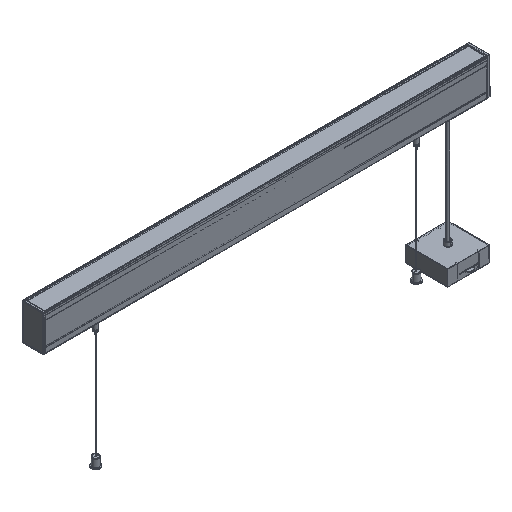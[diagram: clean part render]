
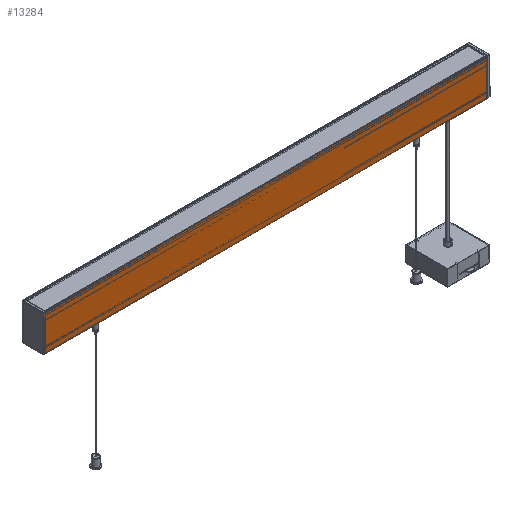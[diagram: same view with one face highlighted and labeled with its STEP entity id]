
A CAD part, isometric view. The second image highlights one B-rep face of the part: STEP entity #13284.
In plain terms, the highlighted planar face has unit normal (0, -1, 0) as drawn and (-1, 0, 0) by its records, which use the part's own axes.
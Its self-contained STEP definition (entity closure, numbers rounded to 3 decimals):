
#1555=FACE_OUTER_BOUND('',#2300,.T.);
#2300=EDGE_LOOP('',(#11553,#11554,#11555,#11556));
#3547=LINE('',#23489,#4944);
#3548=LINE('',#23491,#4945);
#3549=LINE('',#23493,#4946);
#3550=LINE('',#23494,#4947);
#4944=VECTOR('',#17872,304.8);
#4945=VECTOR('',#17873,304.8);
#4946=VECTOR('',#17874,304.8);
#4947=VECTOR('',#17875,304.8);
#6286=VERTEX_POINT('',#23487);
#6287=VERTEX_POINT('',#23488);
#6288=VERTEX_POINT('',#23490);
#6289=VERTEX_POINT('',#23492);
#8163=EDGE_CURVE('',#6286,#6287,#3547,.T.);
#8164=EDGE_CURVE('',#6288,#6286,#3548,.T.);
#8165=EDGE_CURVE('',#6289,#6288,#3549,.T.);
#8166=EDGE_CURVE('',#6287,#6289,#3550,.T.);
#11553=ORIENTED_EDGE('',*,*,#8163,.F.);
#11554=ORIENTED_EDGE('',*,*,#8164,.F.);
#11555=ORIENTED_EDGE('',*,*,#8165,.F.);
#11556=ORIENTED_EDGE('',*,*,#8166,.F.);
#12597=PLANE('',#14460);
#13284=ADVANCED_FACE('',(#1555),#12597,.T.);
#14460=AXIS2_PLACEMENT_3D('',#23486,#17870,#17871);
#17870=DIRECTION('center_axis',(-1.,0.,0.));
#17871=DIRECTION('ref_axis',(0.,-1.,0.));
#17872=DIRECTION('',(0.,0.,1.));
#17873=DIRECTION('',(0.,1.,0.));
#17874=DIRECTION('',(0.,0.,-1.));
#17875=DIRECTION('',(0.,-1.,0.));
#23486=CARTESIAN_POINT('Origin',(-20.,421.,250.048));
#23487=CARTESIAN_POINT('',(-20.,421.,250.048));
#23488=CARTESIAN_POINT('',(-20.,421.,320.048));
#23489=CARTESIAN_POINT('',(-20.,421.,250.048));
#23490=CARTESIAN_POINT('',(-20.,-419.512,250.048));
#23491=CARTESIAN_POINT('',(-20.,-419.512,250.048));
#23492=CARTESIAN_POINT('',(-20.,-419.512,320.048));
#23493=CARTESIAN_POINT('',(-20.,-419.512,320.048));
#23494=CARTESIAN_POINT('',(-20.,421.,320.048));
